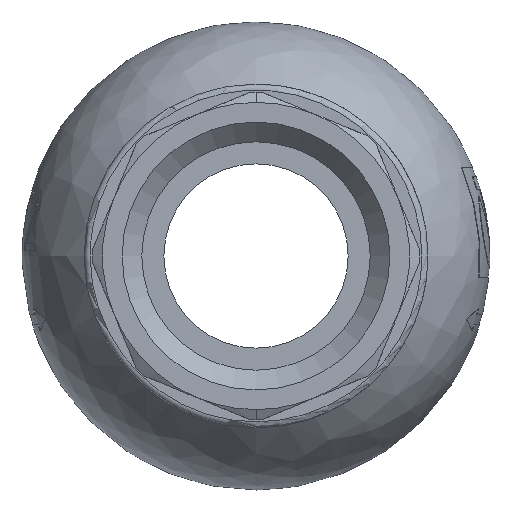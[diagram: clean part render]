
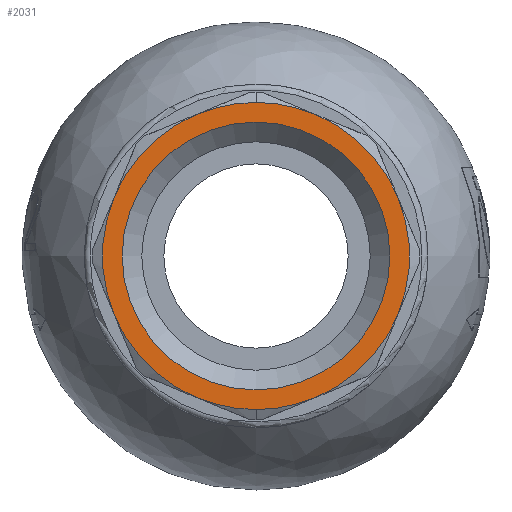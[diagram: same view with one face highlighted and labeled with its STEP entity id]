
A CAD part, left-side view. The second image highlights one B-rep face of the part: STEP entity #2031.
In plain terms, the highlighted planar face has unit normal (-1, 0, 0).
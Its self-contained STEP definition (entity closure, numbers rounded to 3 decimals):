
#1839=CARTESIAN_POINT('',(-0.016,5.118,-12.248));
#1840=DIRECTION('',(1.,-0.,0.));
#1841=DIRECTION('',(-0.,-0.,1.));
#1842=AXIS2_PLACEMENT_3D('',#1839,#1840,#1841);
#1843=PLANE('',#1842);
#1844=CARTESIAN_POINT('',(-0.016,-10.566,-0.7));
#1845=VERTEX_POINT('',#1844);
#1846=CARTESIAN_POINT('',(-0.016,0.334,-0.7));
#1847=DIRECTION('',(-1.,0.,-0.));
#1848=DIRECTION('',(-0.,-1.,0.));
#1849=AXIS2_PLACEMENT_3D('',#1846,#1847,#1848);
#1850=CIRCLE('',#1849,10.9);
#1851=EDGE_CURVE('',#1845,#1845,#1850,.T.);
#1852=ORIENTED_EDGE('',*,*,#1851,.F.);
#1853=EDGE_LOOP('',(#1852));
#1854=FACE_BOUND('',#1853,.T.);
#1855=CARTESIAN_POINT('',(-0.016,-11.214,-5.484));
#1856=VERTEX_POINT('',#1855);
#1857=CARTESIAN_POINT('',(-0.016,-11.214,4.084));
#1858=VERTEX_POINT('',#1857);
#1859=CARTESIAN_POINT('',(-0.016,0.334,-0.7));
#1860=DIRECTION('',(-1.,0.,-0.));
#1861=DIRECTION('',(0.,0.,-1.));
#1862=AXIS2_PLACEMENT_3D('',#1859,#1860,#1861);
#1863=CIRCLE('',#1862,12.5);
#1864=EDGE_CURVE('',#1856,#1858,#1863,.T.);
#1865=ORIENTED_EDGE('',*,*,#1864,.T.);
#1866=CARTESIAN_POINT('',(-0.016,-4.449,10.848));
#1867=VERTEX_POINT('',#1866);
#1868=CARTESIAN_POINT('',(-0.016,0.334,-0.7));
#1869=DIRECTION('',(-1.,0.,-0.));
#1870=DIRECTION('',(0.,0.,-1.));
#1871=AXIS2_PLACEMENT_3D('',#1868,#1869,#1870);
#1872=CIRCLE('',#1871,12.5);
#1873=EDGE_CURVE('',#1858,#1867,#1872,.T.);
#1874=ORIENTED_EDGE('',*,*,#1873,.T.);
#1875=CARTESIAN_POINT('',(-0.016,0.334,11.8));
#1876=VERTEX_POINT('',#1875);
#1877=CARTESIAN_POINT('',(-0.016,-4.449,10.848));
#1878=CARTESIAN_POINT('',(-0.016,-4.071,11.005));
#1879=CARTESIAN_POINT('',(-0.016,-3.686,11.143));
#1880=CARTESIAN_POINT('',(-0.016,-3.294,11.262));
#1881=CARTESIAN_POINT('',(-0.016,-2.903,11.38));
#1882=CARTESIAN_POINT('',(-0.016,-2.506,11.48));
#1883=CARTESIAN_POINT('',(-0.016,-2.104,11.56));
#1884=CARTESIAN_POINT('',(-0.016,-1.703,11.64));
#1885=CARTESIAN_POINT('',(-0.016,-1.298,11.7));
#1886=CARTESIAN_POINT('',(-0.016,-0.891,11.74));
#1887=CARTESIAN_POINT('',(-0.016,-0.484,11.78));
#1888=CARTESIAN_POINT('',(-0.016,-0.075,11.8));
#1889=CARTESIAN_POINT('',(-0.016,0.334,11.8));
#1890=CARTESIAN_POINT('',(-0.016,0.743,11.8));
#1891=CARTESIAN_POINT('',(-0.016,1.152,11.78));
#1892=CARTESIAN_POINT('',(-0.016,1.56,11.74));
#1893=CARTESIAN_POINT('',(-0.016,1.967,11.7));
#1894=CARTESIAN_POINT('',(-0.016,2.372,11.64));
#1895=CARTESIAN_POINT('',(-0.016,2.773,11.56));
#1896=CARTESIAN_POINT('',(-0.016,3.174,11.48));
#1897=CARTESIAN_POINT('',(-0.016,3.571,11.38));
#1898=CARTESIAN_POINT('',(-0.016,3.963,11.262));
#1899=CARTESIAN_POINT('',(-0.016,4.354,11.143));
#1900=CARTESIAN_POINT('',(-0.016,4.74,11.005));
#1901=CARTESIAN_POINT('',(-0.016,5.118,10.848));
#1902=B_SPLINE_CURVE_WITH_KNOTS('',3,(#1877,#1878,#1879,#1880,#1881,#1882,#1883,#1884,#1885,#1886,#1887,#1888,#1889,#1890,#1891,#1892,#1893,#1894,#1895,#1896,#1897,#1898,#1899,#1900,#1901),.UNSPECIFIED.,.F.,.F.,(4,3,3,3,3,3,3,3,4),(67.5,73.125,78.75,84.375,90.,95.625,101.25,106.875,112.5),.UNSPECIFIED.);
#1903=EDGE_CURVE('',#1867,#1876,#1902,.T.);
#1904=ORIENTED_EDGE('',*,*,#1903,.T.);
#1905=CARTESIAN_POINT('',(-0.016,5.118,10.848));
#1906=VERTEX_POINT('',#1905);
#1907=CARTESIAN_POINT('',(-0.016,-4.449,10.848));
#1908=CARTESIAN_POINT('',(-0.016,-4.071,11.005));
#1909=CARTESIAN_POINT('',(-0.016,-3.686,11.143));
#1910=CARTESIAN_POINT('',(-0.016,-3.294,11.262));
#1911=CARTESIAN_POINT('',(-0.016,-2.903,11.38));
#1912=CARTESIAN_POINT('',(-0.016,-2.506,11.48));
#1913=CARTESIAN_POINT('',(-0.016,-2.104,11.56));
#1914=CARTESIAN_POINT('',(-0.016,-1.703,11.64));
#1915=CARTESIAN_POINT('',(-0.016,-1.298,11.7));
#1916=CARTESIAN_POINT('',(-0.016,-0.891,11.74));
#1917=CARTESIAN_POINT('',(-0.016,-0.484,11.78));
#1918=CARTESIAN_POINT('',(-0.016,-0.075,11.8));
#1919=CARTESIAN_POINT('',(-0.016,0.334,11.8));
#1920=CARTESIAN_POINT('',(-0.016,0.743,11.8));
#1921=CARTESIAN_POINT('',(-0.016,1.152,11.78));
#1922=CARTESIAN_POINT('',(-0.016,1.56,11.74));
#1923=CARTESIAN_POINT('',(-0.016,1.967,11.7));
#1924=CARTESIAN_POINT('',(-0.016,2.372,11.64));
#1925=CARTESIAN_POINT('',(-0.016,2.773,11.56));
#1926=CARTESIAN_POINT('',(-0.016,3.174,11.48));
#1927=CARTESIAN_POINT('',(-0.016,3.571,11.38));
#1928=CARTESIAN_POINT('',(-0.016,3.963,11.262));
#1929=CARTESIAN_POINT('',(-0.016,4.354,11.143));
#1930=CARTESIAN_POINT('',(-0.016,4.74,11.005));
#1931=CARTESIAN_POINT('',(-0.016,5.118,10.848));
#1932=B_SPLINE_CURVE_WITH_KNOTS('',3,(#1907,#1908,#1909,#1910,#1911,#1912,#1913,#1914,#1915,#1916,#1917,#1918,#1919,#1920,#1921,#1922,#1923,#1924,#1925,#1926,#1927,#1928,#1929,#1930,#1931),.UNSPECIFIED.,.F.,.F.,(4,3,3,3,3,3,3,3,4),(67.5,73.125,78.75,84.375,90.,95.625,101.25,106.875,112.5),.UNSPECIFIED.);
#1933=EDGE_CURVE('',#1876,#1906,#1932,.T.);
#1934=ORIENTED_EDGE('',*,*,#1933,.T.);
#1935=CARTESIAN_POINT('',(-0.016,11.883,4.084));
#1936=VERTEX_POINT('',#1935);
#1937=CARTESIAN_POINT('',(-0.016,0.334,-0.7));
#1938=DIRECTION('',(-1.,0.,-0.));
#1939=DIRECTION('',(0.,0.,-1.));
#1940=AXIS2_PLACEMENT_3D('',#1937,#1938,#1939);
#1941=CIRCLE('',#1940,12.5);
#1942=EDGE_CURVE('',#1906,#1936,#1941,.T.);
#1943=ORIENTED_EDGE('',*,*,#1942,.T.);
#1944=CARTESIAN_POINT('',(-0.016,11.883,-5.484));
#1945=VERTEX_POINT('',#1944);
#1946=CARTESIAN_POINT('',(-0.016,0.334,-0.7));
#1947=DIRECTION('',(-1.,0.,-0.));
#1948=DIRECTION('',(0.,0.,-1.));
#1949=AXIS2_PLACEMENT_3D('',#1946,#1947,#1948);
#1950=CIRCLE('',#1949,12.5);
#1951=EDGE_CURVE('',#1936,#1945,#1950,.T.);
#1952=ORIENTED_EDGE('',*,*,#1951,.T.);
#1953=CARTESIAN_POINT('',(-0.016,5.118,-12.248));
#1954=VERTEX_POINT('',#1953);
#1955=CARTESIAN_POINT('',(-0.016,0.334,-0.7));
#1956=DIRECTION('',(-1.,0.,-0.));
#1957=DIRECTION('',(0.,0.,-1.));
#1958=AXIS2_PLACEMENT_3D('',#1955,#1956,#1957);
#1959=CIRCLE('',#1958,12.5);
#1960=EDGE_CURVE('',#1945,#1954,#1959,.T.);
#1961=ORIENTED_EDGE('',*,*,#1960,.T.);
#1962=CARTESIAN_POINT('',(-0.016,0.334,-13.2));
#1963=VERTEX_POINT('',#1962);
#1964=CARTESIAN_POINT('',(-0.016,5.118,-12.248));
#1965=CARTESIAN_POINT('',(-0.016,4.74,-12.405));
#1966=CARTESIAN_POINT('',(-0.016,4.354,-12.543));
#1967=CARTESIAN_POINT('',(-0.016,3.963,-12.662));
#1968=CARTESIAN_POINT('',(-0.016,3.571,-12.78));
#1969=CARTESIAN_POINT('',(-0.016,3.174,-12.88));
#1970=CARTESIAN_POINT('',(-0.016,2.773,-12.96));
#1971=CARTESIAN_POINT('',(-0.016,2.372,-13.04));
#1972=CARTESIAN_POINT('',(-0.016,1.967,-13.1));
#1973=CARTESIAN_POINT('',(-0.016,1.56,-13.14));
#1974=CARTESIAN_POINT('',(-0.016,1.152,-13.18));
#1975=CARTESIAN_POINT('',(-0.016,0.743,-13.2));
#1976=CARTESIAN_POINT('',(-0.016,0.334,-13.2));
#1977=CARTESIAN_POINT('',(-0.016,-0.075,-13.2));
#1978=CARTESIAN_POINT('',(-0.016,-0.484,-13.18));
#1979=CARTESIAN_POINT('',(-0.016,-0.891,-13.14));
#1980=CARTESIAN_POINT('',(-0.016,-1.298,-13.1));
#1981=CARTESIAN_POINT('',(-0.016,-1.703,-13.04));
#1982=CARTESIAN_POINT('',(-0.016,-2.104,-12.96));
#1983=CARTESIAN_POINT('',(-0.016,-2.506,-12.88));
#1984=CARTESIAN_POINT('',(-0.016,-2.903,-12.78));
#1985=CARTESIAN_POINT('',(-0.016,-3.294,-12.662));
#1986=CARTESIAN_POINT('',(-0.016,-3.686,-12.543));
#1987=CARTESIAN_POINT('',(-0.016,-4.071,-12.405));
#1988=CARTESIAN_POINT('',(-0.016,-4.449,-12.248));
#1989=B_SPLINE_CURVE_WITH_KNOTS('',3,(#1964,#1965,#1966,#1967,#1968,#1969,#1970,#1971,#1972,#1973,#1974,#1975,#1976,#1977,#1978,#1979,#1980,#1981,#1982,#1983,#1984,#1985,#1986,#1987,#1988),.UNSPECIFIED.,.F.,.F.,(4,3,3,3,3,3,3,3,4),(247.5,253.125,258.75,264.375,270.,275.625,281.25,286.875,292.5),.UNSPECIFIED.);
#1990=EDGE_CURVE('',#1954,#1963,#1989,.T.);
#1991=ORIENTED_EDGE('',*,*,#1990,.T.);
#1992=CARTESIAN_POINT('',(-0.016,-4.449,-12.248));
#1993=VERTEX_POINT('',#1992);
#1994=CARTESIAN_POINT('',(-0.016,5.118,-12.248));
#1995=CARTESIAN_POINT('',(-0.016,4.74,-12.405));
#1996=CARTESIAN_POINT('',(-0.016,4.354,-12.543));
#1997=CARTESIAN_POINT('',(-0.016,3.963,-12.662));
#1998=CARTESIAN_POINT('',(-0.016,3.571,-12.78));
#1999=CARTESIAN_POINT('',(-0.016,3.174,-12.88));
#2000=CARTESIAN_POINT('',(-0.016,2.773,-12.96));
#2001=CARTESIAN_POINT('',(-0.016,2.372,-13.04));
#2002=CARTESIAN_POINT('',(-0.016,1.967,-13.1));
#2003=CARTESIAN_POINT('',(-0.016,1.56,-13.14));
#2004=CARTESIAN_POINT('',(-0.016,1.152,-13.18));
#2005=CARTESIAN_POINT('',(-0.016,0.743,-13.2));
#2006=CARTESIAN_POINT('',(-0.016,0.334,-13.2));
#2007=CARTESIAN_POINT('',(-0.016,-0.075,-13.2));
#2008=CARTESIAN_POINT('',(-0.016,-0.484,-13.18));
#2009=CARTESIAN_POINT('',(-0.016,-0.891,-13.14));
#2010=CARTESIAN_POINT('',(-0.016,-1.298,-13.1));
#2011=CARTESIAN_POINT('',(-0.016,-1.703,-13.04));
#2012=CARTESIAN_POINT('',(-0.016,-2.104,-12.96));
#2013=CARTESIAN_POINT('',(-0.016,-2.506,-12.88));
#2014=CARTESIAN_POINT('',(-0.016,-2.903,-12.78));
#2015=CARTESIAN_POINT('',(-0.016,-3.294,-12.662));
#2016=CARTESIAN_POINT('',(-0.016,-3.686,-12.543));
#2017=CARTESIAN_POINT('',(-0.016,-4.071,-12.405));
#2018=CARTESIAN_POINT('',(-0.016,-4.449,-12.248));
#2019=B_SPLINE_CURVE_WITH_KNOTS('',3,(#1994,#1995,#1996,#1997,#1998,#1999,#2000,#2001,#2002,#2003,#2004,#2005,#2006,#2007,#2008,#2009,#2010,#2011,#2012,#2013,#2014,#2015,#2016,#2017,#2018),.UNSPECIFIED.,.F.,.F.,(4,3,3,3,3,3,3,3,4),(247.5,253.125,258.75,264.375,270.,275.625,281.25,286.875,292.5),.UNSPECIFIED.);
#2020=EDGE_CURVE('',#1963,#1993,#2019,.T.);
#2021=ORIENTED_EDGE('',*,*,#2020,.T.);
#2022=CARTESIAN_POINT('',(-0.016,0.334,-0.7));
#2023=DIRECTION('',(-1.,0.,-0.));
#2024=DIRECTION('',(0.,0.,-1.));
#2025=AXIS2_PLACEMENT_3D('',#2022,#2023,#2024);
#2026=CIRCLE('',#2025,12.5);
#2027=EDGE_CURVE('',#1993,#1856,#2026,.T.);
#2028=ORIENTED_EDGE('',*,*,#2027,.T.);
#2029=EDGE_LOOP('',(#1865,#1874,#1904,#1934,#1943,#1952,#1961,#1991,#2021,#2028));
#2030=FACE_BOUND('',#2029,.T.);
#2031=ADVANCED_FACE('',(#1854,#2030),#1843,.F.);
